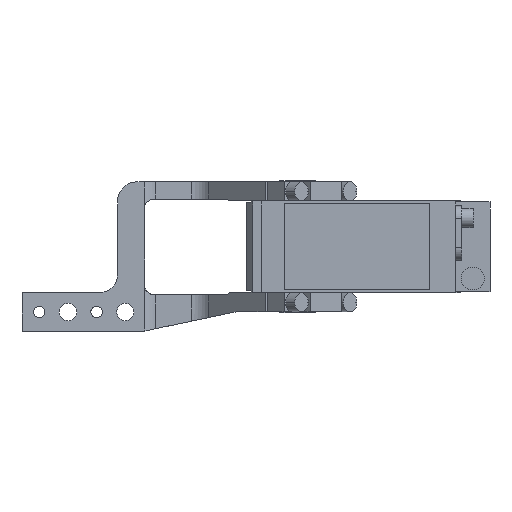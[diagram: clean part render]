
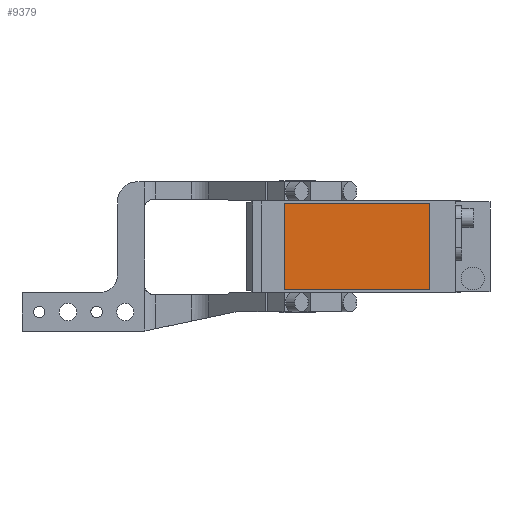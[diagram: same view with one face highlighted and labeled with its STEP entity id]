
A CAD part, front view. The second image highlights one B-rep face of the part: STEP entity #9379.
In plain terms, the highlighted planar face has unit normal (0, -1, 0).
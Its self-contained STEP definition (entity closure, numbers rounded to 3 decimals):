
#396 = LINE ( 'NONE', #9198, #10423 ) ;
#1016 = CARTESIAN_POINT ( 'NONE',  ( 69., -280.5, 22.5 ) ) ;
#1236 = CARTESIAN_POINT ( 'NONE',  ( -7., -280.5, -22.5 ) ) ;
#1662 = VERTEX_POINT ( 'NONE', #2629 ) ;
#1693 = EDGE_CURVE ( 'NONE', #5838, #7350, #396, .T. ) ;
#2022 = LINE ( 'NONE', #3134, #9058 ) ;
#2293 = EDGE_CURVE ( 'NONE', #1662, #2680, #4468, .T. ) ;
#2629 = CARTESIAN_POINT ( 'NONE',  ( 69., -280.5, -22.5 ) ) ;
#2680 = VERTEX_POINT ( 'NONE', #7068 ) ;
#2769 = CARTESIAN_POINT ( 'NONE',  ( 0., -280.5, 0. ) ) ;
#2905 = ORIENTED_EDGE ( 'NONE', *, *, #7130, .T. ) ;
#3134 = CARTESIAN_POINT ( 'NONE',  ( -7., -280.5, -22.5 ) ) ;
#3797 = EDGE_CURVE ( 'NONE', #7350, #1662, #2022, .T. ) ;
#4468 = LINE ( 'NONE', #1016, #5479 ) ;
#5370 = ORIENTED_EDGE ( 'NONE', *, *, #1693, .T. ) ;
#5479 = VECTOR ( 'NONE', #6341, 1000. ) ;
#5838 = VERTEX_POINT ( 'NONE', #10353 ) ;
#6054 = DIRECTION ( 'NONE',  ( 0., -1., 0. ) ) ;
#6242 = VECTOR ( 'NONE', #10339, 1000. ) ;
#6341 = DIRECTION ( 'NONE',  ( 0., 0., 1. ) ) ;
#6837 = PLANE ( 'NONE',  #12641 ) ;
#7068 = CARTESIAN_POINT ( 'NONE',  ( 69., -280.5, 22.5 ) ) ;
#7130 = EDGE_CURVE ( 'NONE', #2680, #5838, #10129, .T. ) ;
#7350 = VERTEX_POINT ( 'NONE', #1236 ) ;
#7442 = DIRECTION ( 'NONE',  ( 1., 0., 0. ) ) ;
#7547 = ORIENTED_EDGE ( 'NONE', *, *, #2293, .T. ) ;
#9058 = VECTOR ( 'NONE', #7442, 1000. ) ;
#9198 = CARTESIAN_POINT ( 'NONE',  ( -7., -280.5, 22.5 ) ) ;
#9379 = ADVANCED_FACE ( 'NONE', ( #10043 ), #6837, .T. ) ;
#10043 = FACE_OUTER_BOUND ( 'NONE', #12015, .T. ) ;
#10052 = ORIENTED_EDGE ( 'NONE', *, *, #3797, .T. ) ;
#10129 = LINE ( 'NONE', #13310, #6242 ) ;
#10339 = DIRECTION ( 'NONE',  ( -1., 0., 0. ) ) ;
#10353 = CARTESIAN_POINT ( 'NONE',  ( -7., -280.5, 22.5 ) ) ;
#10392 = DIRECTION ( 'NONE',  ( 0., 0., -1. ) ) ;
#10423 = VECTOR ( 'NONE', #13520, 1000. ) ;
#12015 = EDGE_LOOP ( 'NONE', ( #5370, #10052, #7547, #2905 ) ) ;
#12641 = AXIS2_PLACEMENT_3D ( 'NONE', #2769, #6054, #10392 ) ;
#13310 = CARTESIAN_POINT ( 'NONE',  ( -7., -280.5, 22.5 ) ) ;
#13520 = DIRECTION ( 'NONE',  ( 0., 0., -1. ) ) ;
